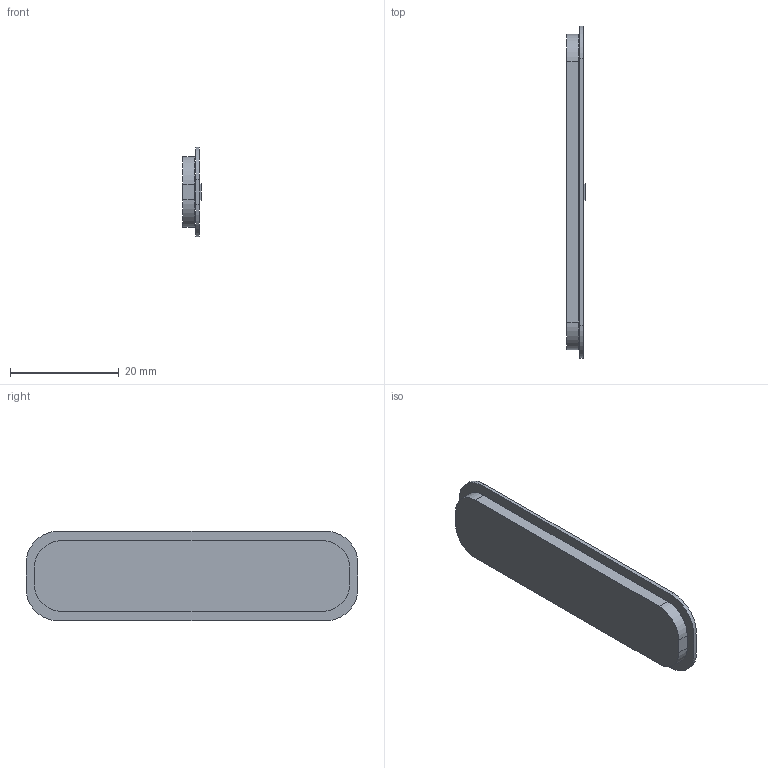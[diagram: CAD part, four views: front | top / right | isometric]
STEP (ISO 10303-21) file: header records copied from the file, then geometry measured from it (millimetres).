
FILE_DESCRIPTION(('Open CASCADE Model'),'2;1');
FILE_NAME('Open CASCADE Shape Model','2026-09-06T11:28:53',('Author'),( 'Open CASCADE'),'Open CASCADE STEP processor 7.7','Open CASCADE 7.7' ,'Unknown');
FILE_SCHEMA(('AUTOMOTIVE_DESIGN { 1 0 10303 214 1 1 1 1 }'));
Length unit declared in the file: millimetre
Products named in the file (1): Open CASCADE STEP translator 7.7 10
Bounding box: 3.45 x 61 x 16.5 mm (x, y, z)
Volume: 2297.5 mm3; surface area: 3797.6 mm2
Topology: 1 solids, 1 shells, 29 faces, 72 edges, 48 vertices
Faces by surface type: plane 21, cylinder 8
Entity records: 1838 total; most frequent: CARTESIAN_POINT 354, DIRECTION 282, LINE 184, VECTOR 184, ORIENTED_EDGE 144, PCURVE 144, DEFINITIONAL_REPRESENTATION 144, EDGE_CURVE 72
